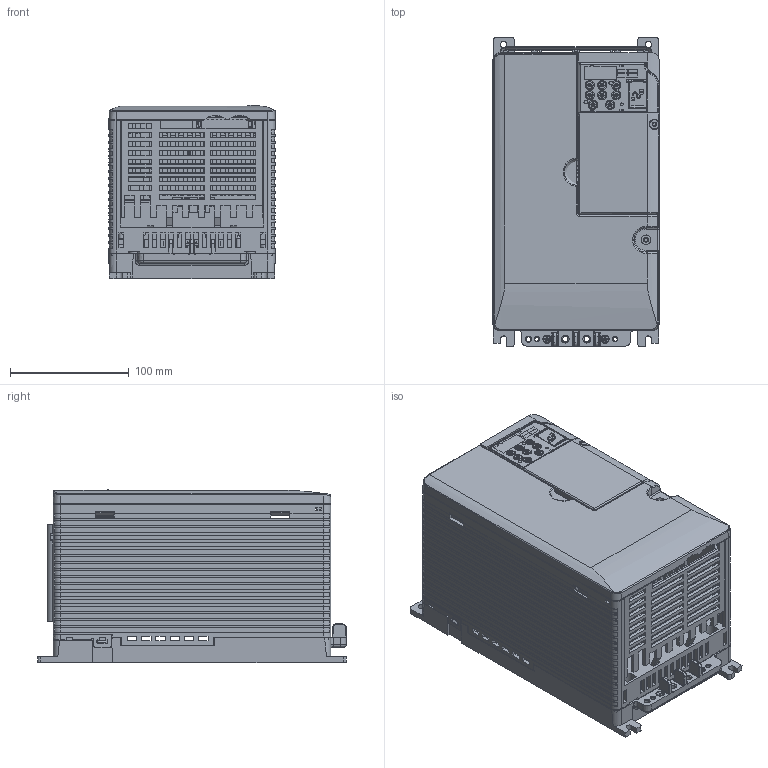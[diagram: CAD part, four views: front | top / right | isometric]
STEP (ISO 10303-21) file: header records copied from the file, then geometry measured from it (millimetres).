
FILE_DESCRIPTION((''),'2;1');
FILE_NAME('V1000_FINLESS_FRAME_I_ASM','2010-07-20T',('jc'),('YASKAWA ELECTRIC CORCORATION'),'PRO/ENGINEER BY PARAMETRIC TECHNOLOGY CORPORATION, 2008490','PRO/ENGINEER BY PARAMETRIC TECHNOLOGY CORPORATION, 2008490','');
FILE_SCHEMA(('CONFIG_CONTROL_DESIGN'));
Length unit declared in the file: millimetre
Products named in the file (23): LAY_VRA25P51A; HSGT21093; SRNT21008; CVST21146_1_AF0; CVST21146_2; CVST21146_ASM; CVST31319; CVST31278; NPJT31442; OPPCB_0609; FX6-40P-0P8SV1; SKRAAME010; RT-D5A205; OPPCB-OTHERPARTS_0609; OPPCB_0609_ASM; CVST31299; V1000-OPERATOR_ASM; CVST31325; CVST31343; FPST31741; FPST31736; NONE-55744; V1000_FINLESS_FRAME_I_ASM
Assembly tree (30 placements, depth 4):
  V1000_FINLESS_FRAME_I_ASM
    LAY_VRA25P51A
    HSGT21093
    SRNT21008
    CVST21146_ASM
      CVST21146_1_AF0
      CVST21146_2  x2
    CVST31319
    V1000-OPERATOR_ASM
      CVST31278
      NPJT31442
      OPPCB_0609_ASM
        OPPCB_0609
        FX6-40P-0P8SV1
        SKRAAME010  x8
        RT-D5A205
        OPPCB-OTHERPARTS_0609
      CVST31299
    CVST31325
    CVST31343
    FPST31741
    FPST31736
    NONE-55744
Bounding box: 140.21 x 260 x 145.8 mm (x, y, z)
Volume: 1139309.6 mm3; surface area: 549257.8 mm2
Topology: 73 solids, 75 shells, 8575 faces, 24178 edges, 15912 vertices
Faces by surface type: plane 7134, cylinder 1044, cone 160, bspline 118, sphere 64, torus 55
Entity records: 273298 total; most frequent: CARTESIAN_POINT 56063, ORIENTED_EDGE 46956, DIRECTION 41844, EDGE_CURVE 23478, VECTOR 20346, LINE 20346, VERTEX_POINT 15480, AXIS2_PLACEMENT_3D 10749
